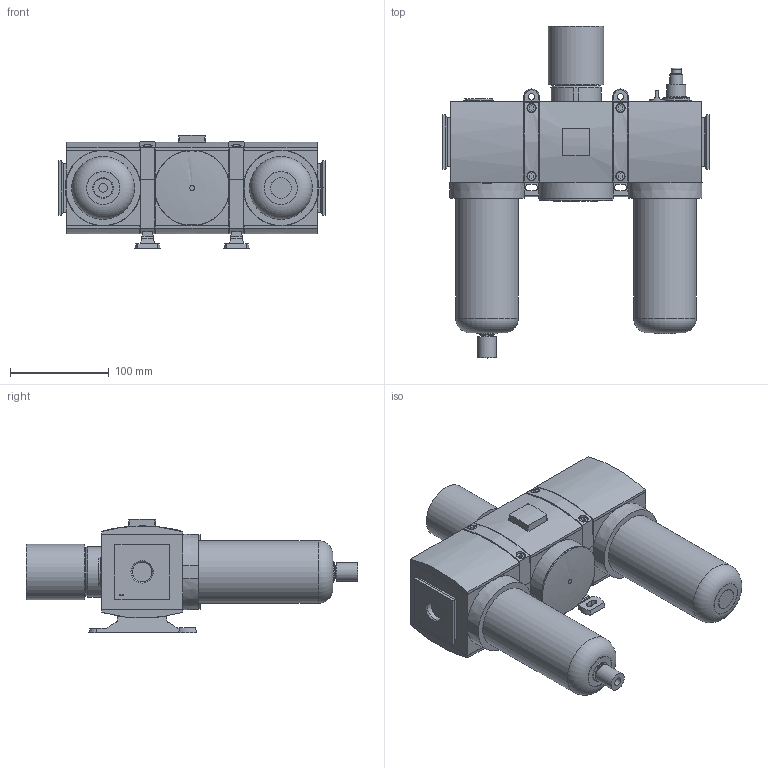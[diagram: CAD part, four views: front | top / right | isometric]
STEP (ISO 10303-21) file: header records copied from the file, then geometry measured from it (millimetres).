
FILE_DESCRIPTION( ( 'STEP AP214' ), '1' );
FILE_NAME( 'p:/temp/worker_224/temp/exporttempdir_3172_567_Dx3Pr/format_0/07552020-190202_gen_19091.stp', '2020-02-07T18:55:03', ( '' ), ( '' ), ' ', 'PARTsolutions', ' ' );
FILE_SCHEMA( ( 'AUTOMOTIVE_DESIGN { 1 0 10303 214 1 1 1 1 }' ) );
Length unit declared in the file: millimetre
Products named in the file (14): 07552020-190202_gen_19091; _439498-010-F(L); _439489-001-0; _439851-002; _507439-006-P; _653-440512-002; _G653ASLA0B00A00_LS; _439488-010-F(L); _439489-002-H; _653-438047-009; _503493-001; _510722-001-STANDARD_653; _503402-001; _500180-013-F(L)
Assembly tree (19 placements, depth 2):
  07552020-190202_gen_19091
    _439498-010-F(L)
    _439489-001-0  x5
    _439851-002
    _507439-006-P  x2
    _653-440512-002
    _G653ASLA0B00A00_LS  x2
    _439488-010-F(L)
    _439489-002-H
    _653-438047-009
    _503493-001
    _510722-001-STANDARD_653
    _503402-001
    _500180-013-F(L)
Bounding box: 270 x 335.95 x 115.36 mm (x, y, z)
Volume: 3173031.4 mm3; surface area: 386425.9 mm2
Topology: 19 solids, 20 shells, 851 faces, 2042 edges, 1311 vertices
Faces by surface type: plane 607, cylinder 157, cone 60, torus 25, sphere 1, bspline 1
Full cylindrical faces by diameter (mm): 1.7 x2, 2.8 x2, 3 x2, 5.85 x4, 6.3 x4, 6.5 x2, 8.5 x4, 8.6 x1, 9.652 x1, 10 x1, 12 x4, 12.985 x1, 13 x2, 15.875 x1, 19 x1, 19.4 x1, 22.7 x1, 27 x1, 30 x2, 33.5 x2, 55.99 x1, 59.732 x1, 63.5 x2
Entity records: 26238 total; most frequent: CARTESIAN_POINT 3914, DIRECTION 3431, ORIENTED_EDGE 3164, EDGE_CURVE 1582, AXIS2_PLACEMENT_3D 1159, LINE 1113, VECTOR 1113, VERTEX_POINT 1068
